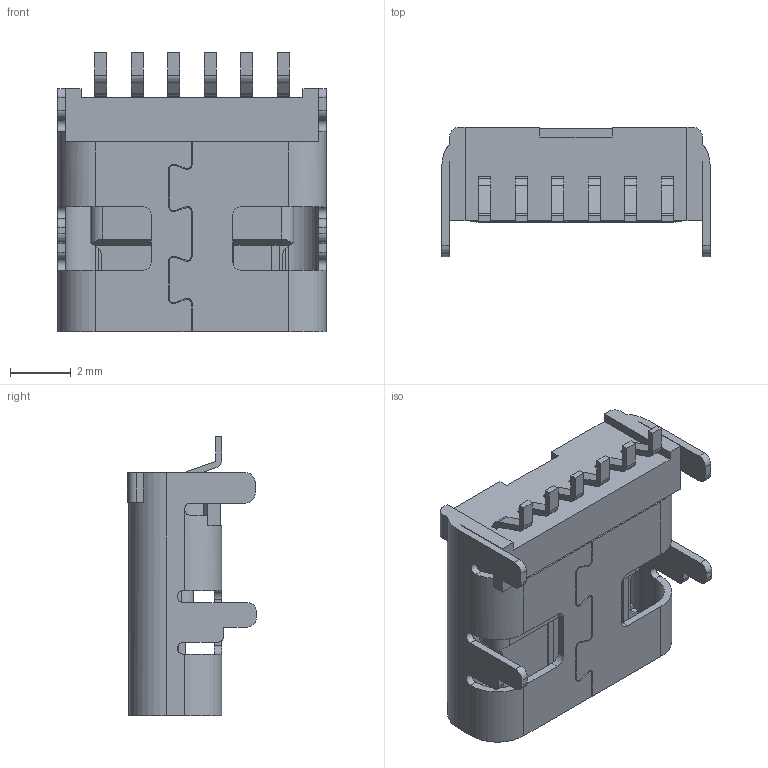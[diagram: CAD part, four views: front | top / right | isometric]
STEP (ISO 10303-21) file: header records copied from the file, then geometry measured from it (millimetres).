
FILE_DESCRIPTION((''),'2;1');
FILE_NAME('PRT0001','2024-01-26T',('Administrator'),(''),'PRO/ENGINEER BY PARAMETRIC TECHNOLOGY CORPORATION, 2013040','PRO/ENGINEER BY PARAMETRIC TECHNOLOGY CORPORATION, 2013040','');
FILE_SCHEMA(('CONFIG_CONTROL_DESIGN'));
Length unit declared in the file: millimetre
Products named in the file (1): PRT0001
Bounding box: 8.84 x 4.25 x 9.2 mm (x, y, z)
Volume: 129.9 mm3; surface area: 401.4 mm2
Topology: 1 solids, 3 shells, 407 faces, 1156 edges, 763 vertices
Faces by surface type: plane 280, cylinder 127
Entity records: 13272 total; most frequent: CARTESIAN_POINT 2422, ORIENTED_EDGE 2312, DIRECTION 2213, EDGE_CURVE 1156, VECTOR 875, LINE 875, VERTEX_POINT 763, AXIS2_PLACEMENT_3D 669
